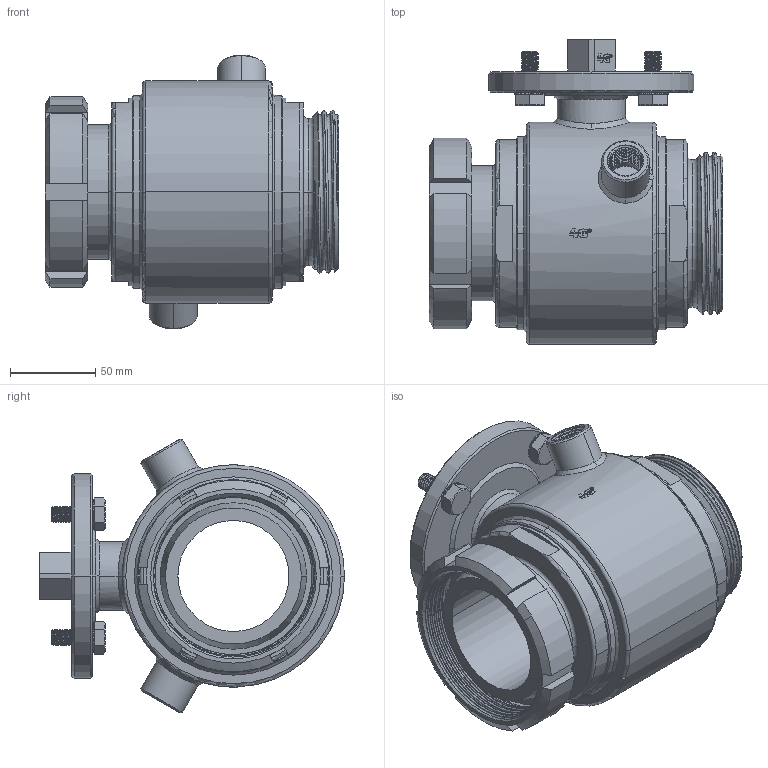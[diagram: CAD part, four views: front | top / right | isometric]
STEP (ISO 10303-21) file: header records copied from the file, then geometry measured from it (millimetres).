
FILE_DESCRIPTION((''),'2;1');
FILE_NAME('103026C6441F_SW0001','2026-01-22T10:01:22',('tecnico2'),('CDM Tecnoconsulting'),'CREO PARAMETRIC BY PTC INC, 2024063','CREO PARAMETRIC BY PTC INC, 2024063','');
FILE_SCHEMA(('CONFIG_CONTROL_DESIGN'));
Products named in the file (1): 103026C6441F_SW0001
Bounding box: 172 x 178.5 x 160.22 mm (x, y, z)
Volume: 1070877.8 mm3; surface area: 306175.1 mm2
Topology: 1 solids, 1 shells, 2085 faces, 5729 edges, 3732 vertices
Faces by surface type: plane 865, cylinder 520, extrusion 272, cone 211, bspline 161, torus 52, sphere 4
Entity records: 174580 total; most frequent: CARTESIAN_POINT 125516, ORIENTED_EDGE 11442, DIRECTION 8112, EDGE_CURVE 5721, VERTEX_POINT 3732, VECTOR 2748, AXIS2_PLACEMENT_3D 2682, B_SPLINE_CURVE_WITH_KNOTS 2487
